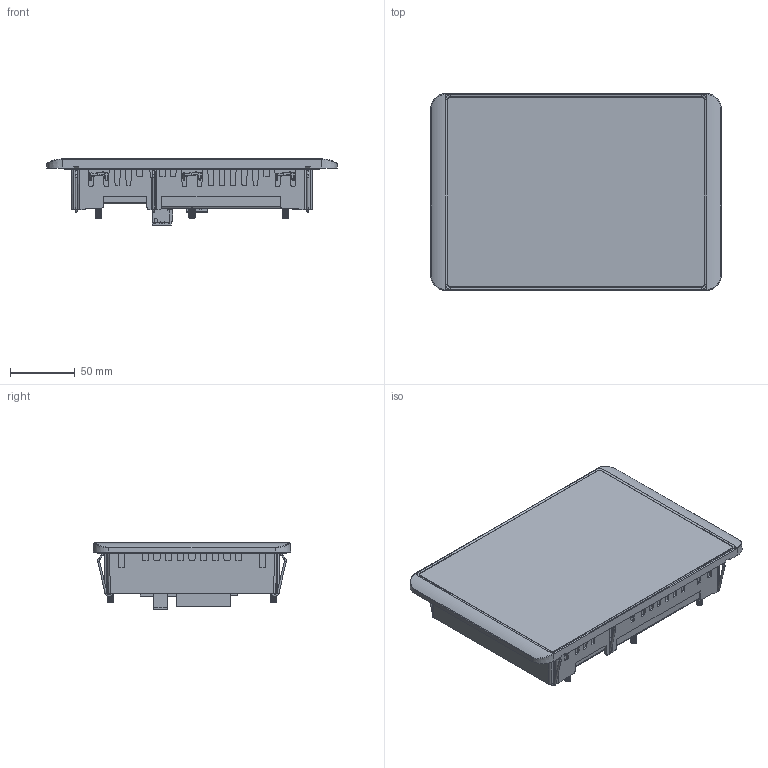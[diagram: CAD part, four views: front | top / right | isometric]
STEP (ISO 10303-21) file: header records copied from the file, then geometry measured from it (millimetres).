
FILE_DESCRIPTION (( 'STEP AP214' ), '1' );
FILE_NAME ('DC2007_Controller.STEP', '2014-11-14T23:59:02', ( '' ), ( '' ), 'SwSTEP 2.0', 'SolidWorks 2013', '' );
FILE_SCHEMA (( 'AUTOMOTIVE_DESIGN' ));
Length unit declared in the file: millimetre
Products named in the file (1): DC2007_Controller
Bounding box: 224 x 152 x 50.95 mm (x, y, z)
Volume: 961461.3 mm3; surface area: 119706.6 mm2
Topology: 1 solids, 24 shells, 3569 faces, 9963 edges, 6470 vertices
Faces by surface type: plane 2191, cylinder 582, bspline 399, cone 313, torus 60, sphere 24
Full cylindrical faces by diameter (mm): 1.45 x6, 1.567 x4, 1.6 x24, 1.8 x6, 2.85 x6, 3.6 x1, 6 x1
Entity records: 128373 total; most frequent: CARTESIAN_POINT 42472, ORIENTED_EDGE 19630, DIRECTION 15501, EDGE_CURVE 9815, VERTEX_POINT 6430, VECTOR 5987, LINE 5987, AXIS2_PLACEMENT_3D 4757
